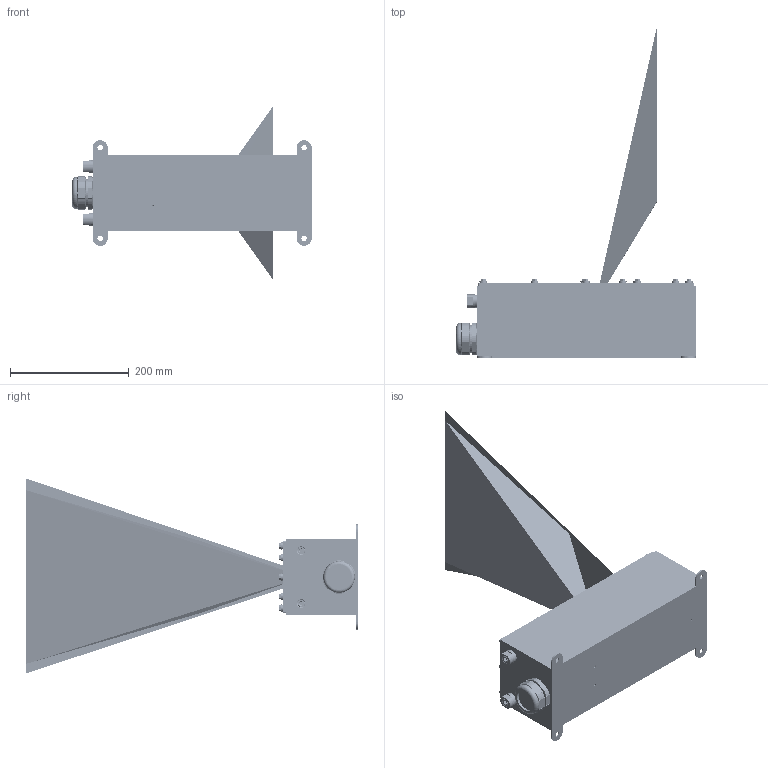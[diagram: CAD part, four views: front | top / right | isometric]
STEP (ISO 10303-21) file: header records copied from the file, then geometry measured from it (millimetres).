
FILE_DESCRIPTION (( 'STEP AP203' ), '1' );
FILE_NAME ('LL-FJ.STEP', '2023-03-07T15:38:02', ( '' ), ( '' ), 'SwSTEP 2.0', 'SolidWorks 2021', '' );
FILE_SCHEMA (( 'CONFIG_CONTROL_DESIGN' ));
Length unit declared in the file: inch
Products named in the file (28): 800001; PG36-01-01-01-03; 800020; 400102; PG36-N03; 201641; 201639; Gocator_2540; PG36-B01; 93625A200; 500199; 201638; 400648; 92125A208_92125A208; 200309; 800023; 400101; LL-FJ; 800005; 800009; PG36-S01; PG36-I01; PG11-N01; SP-M5-2; 201640; PG11-S01; 800004; 4452K542_4452K542
Assembly tree (80 placements, depth 3):
  LL-FJ
    201639
      201638
      SP-M5-2  x12
      800001  x3
    201641
    201640
    400648
    PG36-01-01-01-03
      PG36-B01
      PG36-I01
      PG36-S01
      PG36-N03
    800009  x2
    PG11-S01  x2
    PG11-N01  x2
    4452K542_4452K542  x2
    200309  x2
    400101  x4
    500199  x2
    93625A200  x11
    800023  x8
      800020
      400102
    800004  x12
      800005
      400102
    92125A208_92125A208  x3
    Gocator_2540
Bounding box: 402.3 x 557.84 x 327.94 mm (x, y, z)
Volume: 714170.1 mm3; surface area: 1045789.4 mm2
Topology: 105 solids, 109 shells, 3898 faces, 9896 edges, 6462 vertices
Faces by surface type: plane 1650, cylinder 1324, cone 667, bspline 198, torus 31, sphere 28
Full cylindrical faces by diameter (mm): 3.9 x3, 4 x11, 4.2 x3, 5 x75, 5.5 x3, 5.556 x16, 5.8 x40, 6.35 x12, 9 x4, 10 x3, 10.516 x2, 10.518 x2, 11.883 x2, 12 x20, 12.62 x8, 12.625 x12, 17.272 x2, 18.796 x4, 19.05 x2, 21.844 x2, 22.86 x2, 36.5 x1, 37 x1, 41.5 x1, 41.8 x1, 45 x1, 47 x2, 48 x1, 55 x1, 67.31 x4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
Entity records: 89168 total; most frequent: CARTESIAN_POINT 40940, ORIENTED_EDGE 9118, DIRECTION 8868, EDGE_CURVE 4563, AXIS2_PLACEMENT_3D 3410, VERTEX_POINT 3119, EDGE_LOOP 2262, LINE 2048
